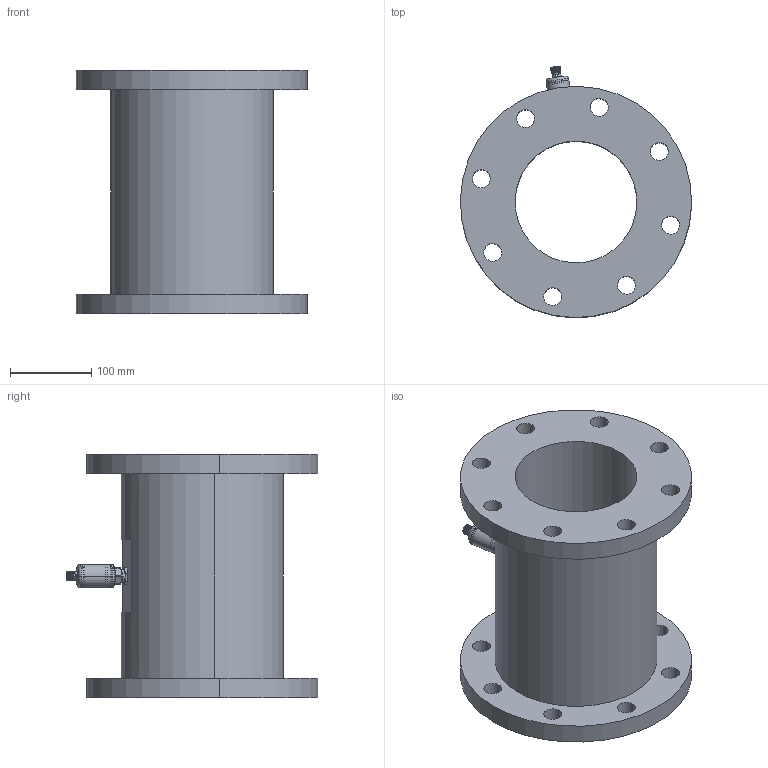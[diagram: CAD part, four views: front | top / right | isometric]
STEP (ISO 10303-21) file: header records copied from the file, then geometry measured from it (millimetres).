
FILE_DESCRIPTION (( 'STEP AP214' ), '1' );
FILE_NAME ('BFW1C150-J.STEP', '2026-01-20T06:38:52', ( '' ), ( '' ), 'SwSTEP 2.0', 'SolidWorks 2023', '' );
FILE_SCHEMA (( 'AUTOMOTIVE_DESIGN' ));
Length unit declared in the file: millimetre
Products named in the file (8): 垫片; 连接管; DN150法兰-华东; 探头; 压力变送器; M16螺母; 壳体; BFW1C150-J
Assembly tree (7 placements, depth 3):
  BFW1C150-J
    压力变送器
      壳体
      垫片
      连接管
      探头
    M16螺母
    DN150法兰-华东
Bounding box: 284.93 x 310.21 x 300 mm (x, y, z)
Volume: 5516420 mm3; surface area: 532946.5 mm2
Topology: 6 solids, 6 shells, 269 faces, 692 edges, 449 vertices
Faces by surface type: cylinder 160, cone 48, plane 47, torus 8, bspline 6
Entity records: 12628 total; most frequent: CARTESIAN_POINT 6045, ORIENTED_EDGE 1384, DIRECTION 1292, EDGE_CURVE 692, AXIS2_PLACEMENT_3D 526, VERTEX_POINT 449, EDGE_LOOP 335, FACE_OUTER_BOUND 269
